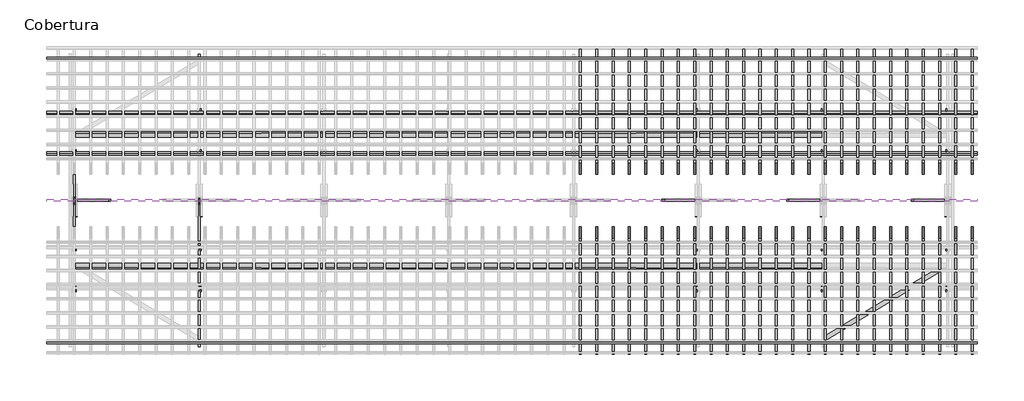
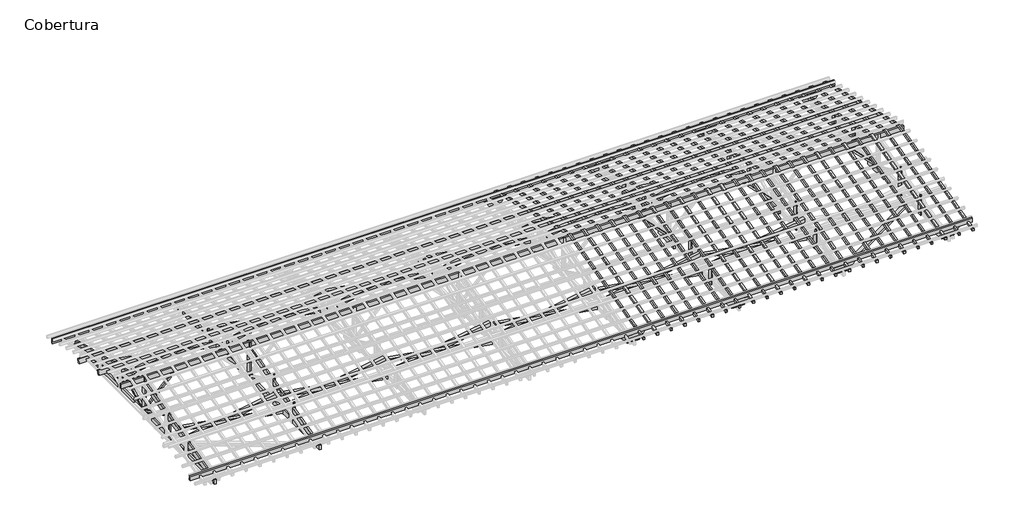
# One storey, part 2 of 3: 91 proxies.
"""IFC4 building model written with IfcOpenShell, lengths in millimetres."""

from ifc_helpers import new_model, si_unit, origin, place, context, project, spatial, transform, mapped, element, save
from components import generic_models_1c8a4039, generic_models_e28ae7d0, generic_models_4e4f0474, generic_models_0ec3bfae, generic_models_12623c72, generic_models_18122483, generic_models_455c2726, generic_models_cd607528, generic_models_390dc48b, generic_models_648e9327, generic_models_c1f13497, generic_models_5a4ce64b, generic_models_8aa0a59f, generic_models_5333c860, generic_models_04b795f0, generic_models_2621aa3c, generic_models_994ace6a, generic_models_3abef84c, generic_models_d7ae4c8c, generic_models_0a93a73b, generic_models_5cccd424, generic_models_344d9f8f, generic_models_3f94ce6d, generic_models_1c750111, generic_models_5cceeb7a, generic_models_e5331721, generic_models_4b42bfc0, generic_models_69da9097, generic_models_0b257a73, generic_models_58ecb920, generic_models_97cfe070, generic_models_f6e6b2fc, generic_models_ccca3100

model = new_model("IFC4")

# Units and contexts
model_context = context("Model", 3, world=origin())
ifc_project = project(units=[si_unit("LENGTHUNIT", "METRE", prefix="MILLI")], contexts=[model_context])

# Site, building, storey
site = spatial("IfcSite", under=ifc_project)
building = spatial("IfcBuilding", under=site)
storey = spatial("IfcBuildingStorey", under=building, Name="Cobertura", Elevation=3000.0)

# Proxies
placement = place(None, origin())
generic_models_shape = generic_models_1c8a4039(model_context)
element("IfcBuildingElementProxy", 1, Name="Modelos genéricos 1 : Modelos genéricos 1", ObjectType="Modelos genéricos 1 : Modelos genéricos 1", at=placement, inside=storey, context=model_context, shape_type="MappedRepresentation", body=[
    mapped(generic_models_shape, transform((0.0, 0.0, 0.0), x_axis=(1.0, 0.0, 0.0), y_axis=(0.0, 1.0, 0.0), z_axis=(0.0, 0.0, 1.0))),
])
generic_models_2_shape = generic_models_e28ae7d0(model_context)
element("IfcBuildingElementProxy", 2, Name="Modelos genéricos 5 : Modelos genéricos 5", ObjectType="Modelos genéricos 5 : Modelos genéricos 5", at=placement, inside=storey, context=model_context, shape_type="MappedRepresentation", body=[
    mapped(generic_models_2_shape, transform((0.0, 0.0, 0.0), x_axis=(1.0, 0.0, 0.0), y_axis=(0.0, 1.0, 0.0), z_axis=(0.0, 0.0, 1.0))),
])
generic_models_3_shape = generic_models_4e4f0474(model_context)
element("IfcBuildingElementProxy", 3, Name="Modelos genéricos 6 : Modelos genéricos 5", ObjectType="Modelos genéricos 6 : Modelos genéricos 5", at=placement, inside=storey, context=model_context, shape_type="MappedRepresentation", body=[
    mapped(generic_models_3_shape, transform((0.0, 0.0, 0.0), x_axis=(1.0, 0.0, 0.0), y_axis=(0.0, 1.0, 0.0), z_axis=(0.0, 0.0, 1.0))),
])
generic_models_4_shape = generic_models_0ec3bfae(model_context)
element("IfcBuildingElementProxy", 4, Name="Modelos genéricos 9 : Modelos genéricos 9", ObjectType="Modelos genéricos 9 : Modelos genéricos 9", at=placement, inside=storey, context=model_context, shape_type="MappedRepresentation", body=[
    mapped(generic_models_4_shape, transform((0.0, 5.0, 0.0), x_axis=(1.0, 0.0, 0.0), y_axis=(0.0, 1.0, 0.0), z_axis=(0.0, 0.0, 1.0))),
])
generic_models_5_shape = generic_models_12623c72(model_context)
element("IfcBuildingElementProxy", 5, Name="Modelos genéricos 11 : Modelos genéricos 11", ObjectType="Modelos genéricos 11 : Modelos genéricos 11", at=placement, inside=storey, context=model_context, shape_type="MappedRepresentation", body=[
    mapped(generic_models_5_shape, transform((0.0, 0.0, 0.0), x_axis=(1.0, 0.0, 0.0), y_axis=(0.0, 1.0, 0.0), z_axis=(0.0, 0.0, 1.0))),
])
generic_models_6_shape = generic_models_18122483(model_context)
element("IfcBuildingElementProxy", 6, Name="Modelos genéricos 12 : Modelos genéricos 12", ObjectType="Modelos genéricos 12 : Modelos genéricos 12", at=placement, inside=storey, context=model_context, shape_type="MappedRepresentation", body=[
    mapped(generic_models_6_shape, transform((0.0, 0.0, 0.0), x_axis=(1.0, 0.0, 0.0), y_axis=(0.0, 1.0, 0.0), z_axis=(0.0, 0.0, 1.0))),
])
generic_models_7_shape = generic_models_455c2726(model_context)
element("IfcBuildingElementProxy", 7, Name="Modelos genéricos 13 : Modelos genéricos 12", ObjectType="Modelos genéricos 13 : Modelos genéricos 12", at=placement, inside=storey, context=model_context, shape_type="MappedRepresentation", body=[
    mapped(generic_models_7_shape, transform((0.0, 0.0, 0.0), x_axis=(1.0, 0.0, 0.0), y_axis=(0.0, 1.0, 0.0), z_axis=(0.0, 0.0, 1.0))),
])
generic_models_8_shape = generic_models_cd607528(model_context)
element("IfcBuildingElementProxy", 8, Name="Modelos genéricos 16 : Modelos genéricos 16", ObjectType="Modelos genéricos 16 : Modelos genéricos 16", at=placement, inside=storey, context=model_context, shape_type="MappedRepresentation", body=[
    mapped(generic_models_8_shape, transform((0.0, 0.0, 0.0), x_axis=(1.0, 0.0, 0.0), y_axis=(0.0, 1.0, 0.0), z_axis=(0.0, 0.0, 1.0))),
])
generic_models_9_shape = generic_models_390dc48b(model_context)
element("IfcBuildingElementProxy", 9, Name="Modelos genéricos 17 : Modelos genéricos 16", ObjectType="Modelos genéricos 17 : Modelos genéricos 16", at=placement, inside=storey, context=model_context, shape_type="MappedRepresentation", body=[
    mapped(generic_models_9_shape, transform((0.0, 0.0, 0.0), x_axis=(1.0, 0.0, 0.0), y_axis=(0.0, 1.0, 0.0), z_axis=(0.0, 0.0, 1.0))),
])
generic_models_10_shape = generic_models_648e9327(model_context)
element("IfcBuildingElementProxy", 10, Name="Modelos genéricos 18 : Modelos genéricos 18", ObjectType="Modelos genéricos 18 : Modelos genéricos 18", at=placement, inside=storey, context=model_context, shape_type="MappedRepresentation", body=[
    mapped(generic_models_10_shape, transform((0.0, 0.0, 0.0), x_axis=(1.0, 0.0, 0.0), y_axis=(0.0, 1.0, 0.0), z_axis=(0.0, 0.0, 1.0))),
])
generic_models_11_shape = generic_models_c1f13497(model_context)
element("IfcBuildingElementProxy", 11, Name="Modelos genéricos 19 : Modelos genéricos 19", ObjectType="Modelos genéricos 19 : Modelos genéricos 19", at=placement, inside=storey, context=model_context, shape_type="MappedRepresentation", body=[
    mapped(generic_models_11_shape, transform((0.0, 0.0, 0.0), x_axis=(1.0, 0.0, 0.0), y_axis=(0.0, 1.0, 0.0), z_axis=(0.0, 0.0, 1.0))),
])
generic_models_12_shape = generic_models_5a4ce64b(model_context)
element("IfcBuildingElementProxy", 12, Name="Modelos genéricos 22 : Modelos genéricos 22", ObjectType="Modelos genéricos 22 : Modelos genéricos 22", at=placement, inside=storey, context=model_context, shape_type="MappedRepresentation", body=[
    mapped(generic_models_12_shape, transform((0.0, 0.0, 0.0), x_axis=(1.0, 0.0, 0.0), y_axis=(0.0, 1.0, 0.0), z_axis=(0.0, 0.0, 1.0))),
])
generic_models_13_shape = generic_models_8aa0a59f(model_context)
element("IfcBuildingElementProxy", 13, Name="Modelos genéricos 23 : Modelos genéricos 23", ObjectType="Modelos genéricos 23 : Modelos genéricos 23", at=placement, inside=storey, context=model_context, shape_type="MappedRepresentation", body=[
    mapped(generic_models_13_shape, transform((0.0, 0.0, 0.0), x_axis=(1.0, 0.0, 0.0), y_axis=(0.0, 1.0, 0.0), z_axis=(0.0, 0.0, 1.0))),
])
generic_models_14_shape = generic_models_5333c860(model_context)
element("IfcBuildingElementProxy", 14, Name="Modelos genéricos 25 : Modelos genéricos 25", ObjectType="Modelos genéricos 25 : Modelos genéricos 25", at=placement, inside=storey, context=model_context, shape_type="MappedRepresentation", body=[
    mapped(generic_models_14_shape, transform((0.0, 0.0, 0.0), x_axis=(1.0, 0.0, 0.0), y_axis=(0.0, 1.0, 0.0), z_axis=(0.0, 0.0, 1.0))),
])
generic_models_15_shape = generic_models_04b795f0(model_context)
element("IfcBuildingElementProxy", 15, Name="Modelos genéricos 26 : Modelos genéricos 25", ObjectType="Modelos genéricos 26 : Modelos genéricos 25", at=placement, inside=storey, context=model_context, shape_type="MappedRepresentation", body=[
    mapped(generic_models_15_shape, transform((0.0, 0.0, 0.0), x_axis=(1.0, 0.0, 0.0), y_axis=(0.0, 1.0, 0.0), z_axis=(0.0, 0.0, 1.0))),
])
generic_models_16_shape = generic_models_2621aa3c(model_context)
element("IfcBuildingElementProxy", 16, Name="Modelos genéricos 24 : Modelos genéricos 1", ObjectType="Modelos genéricos 24 : Modelos genéricos 1", at=placement, inside=storey, context=model_context, shape_type="MappedRepresentation", body=[
    mapped(generic_models_16_shape, transform((0.0, 0.0, 0.0), x_axis=(1.0, 0.0, 0.0), y_axis=(0.0, 1.0, 0.0), z_axis=(0.0, 0.0, 1.0))),
])
generic_models_17_shape = generic_models_994ace6a(model_context)
element("IfcBuildingElementProxy", 17, Name="Modelos genéricos 30 : Modelos genéricos 5", ObjectType="Modelos genéricos 30 : Modelos genéricos 5", at=placement, inside=storey, context=model_context, shape_type="MappedRepresentation", body=[
    mapped(generic_models_17_shape, transform((0.0, 0.0, 0.0), x_axis=(1.0, 0.0, 0.0), y_axis=(0.0, 1.0, 0.0), z_axis=(0.0, 0.0, 1.0))),
])
generic_models_18_shape = generic_models_3abef84c(model_context)
element("IfcBuildingElementProxy", 18, Name="Modelos genéricos 31 : Modelos genéricos 5", ObjectType="Modelos genéricos 31 : Modelos genéricos 5", at=placement, inside=storey, context=model_context, shape_type="MappedRepresentation", body=[
    mapped(generic_models_18_shape, transform((0.0, 0.0, 0.0), x_axis=(1.0, 0.0, 0.0), y_axis=(0.0, 1.0, 0.0), z_axis=(0.0, 0.0, 1.0))),
])
generic_models_19_shape = generic_models_d7ae4c8c(model_context)
element("IfcBuildingElementProxy", 19, Name="Modelos genéricos 32 : Modelos genéricos 9", ObjectType="Modelos genéricos 32 : Modelos genéricos 9", at=placement, inside=storey, context=model_context, shape_type="MappedRepresentation", body=[
    mapped(generic_models_19_shape, transform((0.0, 5.0, 0.0), x_axis=(1.0, 0.0, 0.0), y_axis=(0.0, 1.0, 0.0), z_axis=(0.0, 0.0, 1.0))),
])
generic_models_20_shape = generic_models_0a93a73b(model_context)
element("IfcBuildingElementProxy", 20, Name="Modelos genéricos 33 : Modelos genéricos 11", ObjectType="Modelos genéricos 33 : Modelos genéricos 11", at=placement, inside=storey, context=model_context, shape_type="MappedRepresentation", body=[
    mapped(generic_models_20_shape, transform((0.0, 0.0, 0.0), x_axis=(1.0, 0.0, 0.0), y_axis=(0.0, 1.0, 0.0), z_axis=(0.0, 0.0, 1.0))),
])
generic_models_21_shape = generic_models_5cccd424(model_context)
element("IfcBuildingElementProxy", 21, Name="Modelos genéricos 34 : Modelos genéricos 12", ObjectType="Modelos genéricos 34 : Modelos genéricos 12", at=placement, inside=storey, context=model_context, shape_type="MappedRepresentation", body=[
    mapped(generic_models_21_shape, transform((0.0, 0.0, 0.0), x_axis=(1.0, 0.0, 0.0), y_axis=(0.0, 1.0, 0.0), z_axis=(0.0, 0.0, 1.0))),
])
generic_models_22_shape = generic_models_344d9f8f(model_context)
element("IfcBuildingElementProxy", 22, Name="Modelos genéricos 112 : Modelos genéricos 9", ObjectType="Modelos genéricos 112 : Modelos genéricos 9", at=placement, inside=storey, context=model_context, shape_type="MappedRepresentation", body=[
    mapped(generic_models_22_shape, transform((-38750.0, 5.0, 0.0), x_axis=(1.0, 0.0, 0.0), y_axis=(0.0, 1.0, 0.0), z_axis=(0.0, 0.0, 1.0))),
])
generic_models_23_shape = generic_models_3f94ce6d(model_context)
element("IfcBuildingElementProxy", 23, Name="Modelos genéricos 117 : Modelos genéricos 5", ObjectType="Modelos genéricos 117 : Modelos genéricos 5", at=placement, inside=storey, context=model_context, shape_type="MappedRepresentation", body=[
    mapped(generic_models_23_shape, transform((-38750.0, 0.0, 0.0), x_axis=(1.0, 0.0, 0.0), y_axis=(0.0, 1.0, 0.0), z_axis=(0.0, 0.0, 1.0))),
])
generic_models_24_shape = generic_models_1c750111(model_context)
element("IfcBuildingElementProxy", 24, Name="Modelos genéricos 118 : Modelos genéricos 5", ObjectType="Modelos genéricos 118 : Modelos genéricos 5", at=placement, inside=storey, context=model_context, shape_type="MappedRepresentation", body=[
    mapped(generic_models_24_shape, transform((-38750.0, 0.0, 0.0), x_axis=(1.0, 0.0, 0.0), y_axis=(0.0, 1.0, 0.0), z_axis=(0.0, 0.0, 1.0))),
])
generic_models_25_shape = generic_models_5cceeb7a(model_context)
element("IfcBuildingElementProxy", 25, Name="Modelos genéricos 120 : Modelos genéricos 23", ObjectType="Modelos genéricos 120 : Modelos genéricos 23", at=placement, inside=storey, context=model_context, shape_type="MappedRepresentation", body=[
    mapped(generic_models_25_shape, transform((-38750.0, 0.0, 0.0), x_axis=(1.0, 0.0, 0.0), y_axis=(0.0, 1.0, 0.0), z_axis=(0.0, 0.0, 1.0))),
])
element("IfcBuildingElementProxy", 26, Name="Modelos genéricos 131 : Modelos genéricos 9", ObjectType="Modelos genéricos 131 : Modelos genéricos 9", at=placement, inside=storey, context=model_context, shape_type="MappedRepresentation", body=[
    mapped(generic_models_22_shape, transform((-35100.0, 5.0, 0.0), x_axis=(1.0, 0.0, 0.0), y_axis=(0.0, 1.0, 0.0), z_axis=(0.0, 0.0, 1.0))),
])
element("IfcBuildingElementProxy", 27, Name="Modelos genéricos 136 : Modelos genéricos 5", ObjectType="Modelos genéricos 136 : Modelos genéricos 5", at=placement, inside=storey, context=model_context, shape_type="MappedRepresentation", body=[
    mapped(generic_models_23_shape, transform((-35100.0, 0.0, 0.0), x_axis=(1.0, 0.0, 0.0), y_axis=(0.0, 1.0, 0.0), z_axis=(0.0, 0.0, 1.0))),
])
element("IfcBuildingElementProxy", 28, Name="Modelos genéricos 137 : Modelos genéricos 5", ObjectType="Modelos genéricos 137 : Modelos genéricos 5", at=placement, inside=storey, context=model_context, shape_type="MappedRepresentation", body=[
    mapped(generic_models_24_shape, transform((-35100.0, 0.0, 0.0), x_axis=(1.0, 0.0, 0.0), y_axis=(0.0, 1.0, 0.0), z_axis=(0.0, 0.0, 1.0))),
])
element("IfcBuildingElementProxy", 29, Name="Modelos genéricos 140 : Modelos genéricos 23", ObjectType="Modelos genéricos 140 : Modelos genéricos 23", at=placement, inside=storey, context=model_context, shape_type="MappedRepresentation", body=[
    mapped(generic_models_25_shape, transform((-35100.0, 0.0, 0.0), x_axis=(1.0, 0.0, 0.0), y_axis=(0.0, 1.0, 0.0), z_axis=(0.0, 0.0, 1.0))),
])
element("IfcBuildingElementProxy", 30, Name="Modelos genéricos 151 : Modelos genéricos 9", ObjectType="Modelos genéricos 151 : Modelos genéricos 9", at=placement, inside=storey, context=model_context, shape_type="MappedRepresentation", body=[
    mapped(generic_models_22_shape, transform((-31450.0, 5.0, 0.0), x_axis=(1.0, 0.0, 0.0), y_axis=(0.0, 1.0, 0.0), z_axis=(0.0, 0.0, 1.0))),
])
element("IfcBuildingElementProxy", 31, Name="Modelos genéricos 156 : Modelos genéricos 5", ObjectType="Modelos genéricos 156 : Modelos genéricos 5", at=placement, inside=storey, context=model_context, shape_type="MappedRepresentation", body=[
    mapped(generic_models_23_shape, transform((-31450.0, 0.0, 0.0), x_axis=(1.0, 0.0, 0.0), y_axis=(0.0, 1.0, 0.0), z_axis=(0.0, 0.0, 1.0))),
])
element("IfcBuildingElementProxy", 32, Name="Modelos genéricos 157 : Modelos genéricos 5", ObjectType="Modelos genéricos 157 : Modelos genéricos 5", at=placement, inside=storey, context=model_context, shape_type="MappedRepresentation", body=[
    mapped(generic_models_24_shape, transform((-31450.0, 0.0, 0.0), x_axis=(1.0, 0.0, 0.0), y_axis=(0.0, 1.0, 0.0), z_axis=(0.0, 0.0, 1.0))),
])
element("IfcBuildingElementProxy", 33, Name="Modelos genéricos 159 : Modelos genéricos 23", ObjectType="Modelos genéricos 159 : Modelos genéricos 23", at=placement, inside=storey, context=model_context, shape_type="MappedRepresentation", body=[
    mapped(generic_models_25_shape, transform((-31450.0, 0.0, 0.0), x_axis=(1.0, 0.0, 0.0), y_axis=(0.0, 1.0, 0.0), z_axis=(0.0, 0.0, 1.0))),
])
generic_models_26_shape = generic_models_e5331721(model_context)
element("IfcBuildingElementProxy", 34, Name="Modelos genéricos 47 : Modelos genéricos 3", ObjectType="Modelos genéricos 47 : Modelos genéricos 3", at=placement, inside=storey, context=model_context, shape_type="MappedRepresentation", body=[
    mapped(generic_models_26_shape, transform((-38750.0, 0.0, 0.0), x_axis=(1.0, 0.0, 0.0), y_axis=(0.0, 1.0, 0.0), z_axis=(0.0, 0.0, 1.0))),
])
element("IfcBuildingElementProxy", 35, Name="Modelos genéricos 48 : Modelos genéricos 3", ObjectType="Modelos genéricos 48 : Modelos genéricos 3", at=placement, inside=storey, context=model_context, shape_type="MappedRepresentation", body=[
    mapped(generic_models_26_shape, transform((-35100.0, 0.0, 0.0), x_axis=(1.0, 0.0, 0.0), y_axis=(0.0, 1.0, 0.0), z_axis=(0.0, 0.0, 1.0))),
])
element("IfcBuildingElementProxy", 36, Name="Modelos genéricos 66 : Modelos genéricos 3", ObjectType="Modelos genéricos 66 : Modelos genéricos 3", at=placement, inside=storey, context=model_context, shape_type="MappedRepresentation", body=[
    mapped(generic_models_26_shape, transform((-31450.0, 0.0, 0.0), x_axis=(1.0, 0.0, 0.0), y_axis=(0.0, 1.0, 0.0), z_axis=(0.0, 0.0, 1.0))),
])
element("IfcBuildingElementProxy", 37, Name="Modelos genéricos 67 : Modelos genéricos 3", ObjectType="Modelos genéricos 67 : Modelos genéricos 3", at=placement, inside=storey, context=model_context, shape_type="MappedRepresentation", body=[
    mapped(generic_models_26_shape, transform((-42400.0, 0.0, 0.0), x_axis=(1.0, 0.0, 0.0), y_axis=(0.0, 1.0, 0.0), z_axis=(0.0, 0.0, 1.0))),
])
generic_models_27_shape = generic_models_4b42bfc0(model_context)
element("IfcBuildingElementProxy", 38, Name="Modelos genéricos 123 : Modelos genéricos 3", ObjectType="Modelos genéricos 123 : Modelos genéricos 3", at=placement, inside=storey, context=model_context, shape_type="MappedRepresentation", body=[
    mapped(generic_models_27_shape, transform((-38750.0, 0.0, 0.0), x_axis=(1.0, 0.0, 0.0), y_axis=(0.0, 1.0, 0.0), z_axis=(0.0, 0.0, 1.0))),
])
element("IfcBuildingElementProxy", 39, Name="Modelos genéricos 124 : Modelos genéricos 3", ObjectType="Modelos genéricos 124 : Modelos genéricos 3", at=placement, inside=storey, context=model_context, shape_type="MappedRepresentation", body=[
    mapped(generic_models_27_shape, transform((-35100.0, 0.0, 0.0), x_axis=(1.0, 0.0, 0.0), y_axis=(0.0, 1.0, 0.0), z_axis=(0.0, 0.0, 1.0))),
])
element("IfcBuildingElementProxy", 40, Name="Modelos genéricos 139 : Modelos genéricos 3", ObjectType="Modelos genéricos 139 : Modelos genéricos 3", at=placement, inside=storey, context=model_context, shape_type="MappedRepresentation", body=[
    mapped(generic_models_27_shape, transform((-31450.0, 0.0, 0.0), x_axis=(1.0, 0.0, 0.0), y_axis=(0.0, 1.0, 0.0), z_axis=(0.0, 0.0, 1.0))),
])
element("IfcBuildingElementProxy", 41, Name="Modelos genéricos 143 : Modelos genéricos 3", ObjectType="Modelos genéricos 143 : Modelos genéricos 3", at=placement, inside=storey, context=model_context, shape_type="MappedRepresentation", body=[
    mapped(generic_models_27_shape, transform((-42400.0, 0.0, 0.0), x_axis=(1.0, 0.0, 0.0), y_axis=(0.0, 1.0, 0.0), z_axis=(0.0, 0.0, 1.0))),
])
generic_models_28_shape = generic_models_69da9097(model_context)
element("IfcBuildingElementProxy", 42, Name="Modelos genéricos 235 : Modelos genéricos 231", ObjectType="Modelos genéricos 235 : Modelos genéricos 231", at=placement, inside=storey, context=model_context, shape_type="MappedRepresentation", body=[
    mapped(generic_models_28_shape, transform((-3650.0, 0.0, 0.0), x_axis=(1.0, 0.0, 0.0), y_axis=(0.0, 1.0, 0.0), z_axis=(0.0, 0.0, 1.0))),
])
generic_models_29_shape = generic_models_0b257a73(model_context)
element("IfcBuildingElementProxy", 43, Name="Modelos genéricos 236 : Modelos genéricos 231", ObjectType="Modelos genéricos 236 : Modelos genéricos 231", at=placement, inside=storey, context=model_context, shape_type="MappedRepresentation", body=[
    mapped(generic_models_29_shape, transform((-3650.0, 0.0, 0.0), x_axis=(1.0, 0.0, 0.0), y_axis=(0.0, 1.0, 0.0), z_axis=(0.0, 0.0, 1.0))),
])
generic_models_30_shape = generic_models_58ecb920(model_context)
element("IfcBuildingElementProxy", 44, Name="Modelos genéricos 237 : Modelos genéricos 231", ObjectType="Modelos genéricos 237 : Modelos genéricos 231", at=placement, inside=storey, context=model_context, shape_type="MappedRepresentation", body=[
    mapped(generic_models_30_shape, transform((-3650.0, 0.0, 0.0), x_axis=(1.0, 0.0, 0.0), y_axis=(0.0, 1.0, 0.0), z_axis=(0.0, 0.0, 1.0))),
])
generic_models_31_shape = generic_models_97cfe070(model_context)
element("IfcBuildingElementProxy", 45, Name="Modelos genéricos 238 : Modelos genéricos 231", ObjectType="Modelos genéricos 238 : Modelos genéricos 231", at=placement, inside=storey, context=model_context, shape_type="MappedRepresentation", body=[
    mapped(generic_models_31_shape, transform((-3650.0, 0.0, 0.0), x_axis=(1.0, 0.0, 0.0), y_axis=(0.0, 1.0, 0.0), z_axis=(0.0, 0.0, 1.0))),
])
element("IfcBuildingElementProxy", 46, Name="Modelos genéricos 239 : Modelos genéricos 231", ObjectType="Modelos genéricos 239 : Modelos genéricos 231", at=placement, inside=storey, context=model_context, shape_type="MappedRepresentation", body=[
    mapped(generic_models_28_shape, transform((-7300.0, 0.0, 0.0), x_axis=(1.0, 0.0, 0.0), y_axis=(0.0, 1.0, 0.0), z_axis=(0.0, 0.0, 1.0))),
])
element("IfcBuildingElementProxy", 47, Name="Modelos genéricos 240 : Modelos genéricos 231", ObjectType="Modelos genéricos 240 : Modelos genéricos 231", at=placement, inside=storey, context=model_context, shape_type="MappedRepresentation", body=[
    mapped(generic_models_29_shape, transform((-7300.0, 0.0, 0.0), x_axis=(1.0, 0.0, 0.0), y_axis=(0.0, 1.0, 0.0), z_axis=(0.0, 0.0, 1.0))),
])
element("IfcBuildingElementProxy", 48, Name="Modelos genéricos 241 : Modelos genéricos 231", ObjectType="Modelos genéricos 241 : Modelos genéricos 231", at=placement, inside=storey, context=model_context, shape_type="MappedRepresentation", body=[
    mapped(generic_models_30_shape, transform((-7300.0, 0.0, 0.0), x_axis=(1.0, 0.0, 0.0), y_axis=(0.0, 1.0, 0.0), z_axis=(0.0, 0.0, 1.0))),
])
element("IfcBuildingElementProxy", 49, Name="Modelos genéricos 242 : Modelos genéricos 231", ObjectType="Modelos genéricos 242 : Modelos genéricos 231", at=placement, inside=storey, context=model_context, shape_type="MappedRepresentation", body=[
    mapped(generic_models_31_shape, transform((-7300.0, 0.0, 0.0), x_axis=(1.0, 0.0, 0.0), y_axis=(0.0, 1.0, 0.0), z_axis=(0.0, 0.0, 1.0))),
])
element("IfcBuildingElementProxy", 50, Name="Modelos genéricos 243 : Modelos genéricos 231", ObjectType="Modelos genéricos 243 : Modelos genéricos 231", at=placement, inside=storey, context=model_context, shape_type="MappedRepresentation", body=[
    mapped(generic_models_28_shape, transform((-10950.0, 0.0, 0.0), x_axis=(1.0, 0.0, 0.0), y_axis=(0.0, 1.0, 0.0), z_axis=(0.0, 0.0, 1.0))),
])
element("IfcBuildingElementProxy", 51, Name="Modelos genéricos 244 : Modelos genéricos 231", ObjectType="Modelos genéricos 244 : Modelos genéricos 231", at=placement, inside=storey, context=model_context, shape_type="MappedRepresentation", body=[
    mapped(generic_models_29_shape, transform((-10950.0, 0.0, 0.0), x_axis=(1.0, 0.0, 0.0), y_axis=(0.0, 1.0, 0.0), z_axis=(0.0, 0.0, 1.0))),
])
element("IfcBuildingElementProxy", 52, Name="Modelos genéricos 245 : Modelos genéricos 231", ObjectType="Modelos genéricos 245 : Modelos genéricos 231", at=placement, inside=storey, context=model_context, shape_type="MappedRepresentation", body=[
    mapped(generic_models_30_shape, transform((-10950.0, 0.0, 0.0), x_axis=(1.0, 0.0, 0.0), y_axis=(0.0, 1.0, 0.0), z_axis=(0.0, 0.0, 1.0))),
])
element("IfcBuildingElementProxy", 53, Name="Modelos genéricos 246 : Modelos genéricos 231", ObjectType="Modelos genéricos 246 : Modelos genéricos 231", at=placement, inside=storey, context=model_context, shape_type="MappedRepresentation", body=[
    mapped(generic_models_31_shape, transform((-10950.0, 0.0, 0.0), x_axis=(1.0, 0.0, 0.0), y_axis=(0.0, 1.0, 0.0), z_axis=(0.0, 0.0, 1.0))),
])
element("IfcBuildingElementProxy", 54, Name="Modelos genéricos 247 : Modelos genéricos 231", ObjectType="Modelos genéricos 247 : Modelos genéricos 231", at=placement, inside=storey, context=model_context, shape_type="MappedRepresentation", body=[
    mapped(generic_models_28_shape, transform((-14600.0, 0.0, 0.0), x_axis=(1.0, 0.0, 0.0), y_axis=(0.0, 1.0, 0.0), z_axis=(0.0, 0.0, 1.0))),
])
element("IfcBuildingElementProxy", 55, Name="Modelos genéricos 248 : Modelos genéricos 231", ObjectType="Modelos genéricos 248 : Modelos genéricos 231", at=placement, inside=storey, context=model_context, shape_type="MappedRepresentation", body=[
    mapped(generic_models_29_shape, transform((-14600.0, 0.0, 0.0), x_axis=(1.0, 0.0, 0.0), y_axis=(0.0, 1.0, 0.0), z_axis=(0.0, 0.0, 1.0))),
])
element("IfcBuildingElementProxy", 56, Name="Modelos genéricos 249 : Modelos genéricos 231", ObjectType="Modelos genéricos 249 : Modelos genéricos 231", at=placement, inside=storey, context=model_context, shape_type="MappedRepresentation", body=[
    mapped(generic_models_30_shape, transform((-14600.0, 0.0, 0.0), x_axis=(1.0, 0.0, 0.0), y_axis=(0.0, 1.0, 0.0), z_axis=(0.0, 0.0, 1.0))),
])
element("IfcBuildingElementProxy", 57, Name="Modelos genéricos 250 : Modelos genéricos 231", ObjectType="Modelos genéricos 250 : Modelos genéricos 231", at=placement, inside=storey, context=model_context, shape_type="MappedRepresentation", body=[
    mapped(generic_models_31_shape, transform((-14600.0, 0.0, 0.0), x_axis=(1.0, 0.0, 0.0), y_axis=(0.0, 1.0, 0.0), z_axis=(0.0, 0.0, 1.0))),
])
element("IfcBuildingElementProxy", 58, Name="Modelos genéricos 251 : Modelos genéricos 231", ObjectType="Modelos genéricos 251 : Modelos genéricos 231", at=placement, inside=storey, context=model_context, shape_type="MappedRepresentation", body=[
    mapped(generic_models_28_shape, transform((-18250.0, 0.0, 0.0), x_axis=(1.0, 0.0, 0.0), y_axis=(0.0, 1.0, 0.0), z_axis=(0.0, 0.0, 1.0))),
])
element("IfcBuildingElementProxy", 59, Name="Modelos genéricos 252 : Modelos genéricos 231", ObjectType="Modelos genéricos 252 : Modelos genéricos 231", at=placement, inside=storey, context=model_context, shape_type="MappedRepresentation", body=[
    mapped(generic_models_29_shape, transform((-18250.0, 0.0, 0.0), x_axis=(1.0, 0.0, 0.0), y_axis=(0.0, 1.0, 0.0), z_axis=(0.0, 0.0, 1.0))),
])
element("IfcBuildingElementProxy", 60, Name="Modelos genéricos 253 : Modelos genéricos 231", ObjectType="Modelos genéricos 253 : Modelos genéricos 231", at=placement, inside=storey, context=model_context, shape_type="MappedRepresentation", body=[
    mapped(generic_models_30_shape, transform((-18250.0, 0.0, 0.0), x_axis=(1.0, 0.0, 0.0), y_axis=(0.0, 1.0, 0.0), z_axis=(0.0, 0.0, 1.0))),
])
element("IfcBuildingElementProxy", 61, Name="Modelos genéricos 254 : Modelos genéricos 231", ObjectType="Modelos genéricos 254 : Modelos genéricos 231", at=placement, inside=storey, context=model_context, shape_type="MappedRepresentation", body=[
    mapped(generic_models_31_shape, transform((-18250.0, 0.0, 0.0), x_axis=(1.0, 0.0, 0.0), y_axis=(0.0, 1.0, 0.0), z_axis=(0.0, 0.0, 1.0))),
])
element("IfcBuildingElementProxy", 62, Name="Modelos genéricos 255 : Modelos genéricos 231", ObjectType="Modelos genéricos 255 : Modelos genéricos 231", at=placement, inside=storey, context=model_context, shape_type="MappedRepresentation", body=[
    mapped(generic_models_28_shape, transform((-21900.0, 0.0, 0.0), x_axis=(1.0, 0.0, 0.0), y_axis=(0.0, 1.0, 0.0), z_axis=(0.0, 0.0, 1.0))),
])
element("IfcBuildingElementProxy", 63, Name="Modelos genéricos 256 : Modelos genéricos 231", ObjectType="Modelos genéricos 256 : Modelos genéricos 231", at=placement, inside=storey, context=model_context, shape_type="MappedRepresentation", body=[
    mapped(generic_models_29_shape, transform((-21900.0, 0.0, 0.0), x_axis=(1.0, 0.0, 0.0), y_axis=(0.0, 1.0, 0.0), z_axis=(0.0, 0.0, 1.0))),
])
element("IfcBuildingElementProxy", 64, Name="Modelos genéricos 257 : Modelos genéricos 231", ObjectType="Modelos genéricos 257 : Modelos genéricos 231", at=placement, inside=storey, context=model_context, shape_type="MappedRepresentation", body=[
    mapped(generic_models_30_shape, transform((-21900.0, 0.0, 0.0), x_axis=(1.0, 0.0, 0.0), y_axis=(0.0, 1.0, 0.0), z_axis=(0.0, 0.0, 1.0))),
])
element("IfcBuildingElementProxy", 65, Name="Modelos genéricos 258 : Modelos genéricos 231", ObjectType="Modelos genéricos 258 : Modelos genéricos 231", at=placement, inside=storey, context=model_context, shape_type="MappedRepresentation", body=[
    mapped(generic_models_31_shape, transform((-21900.0, 0.0, 0.0), x_axis=(1.0, 0.0, 0.0), y_axis=(0.0, 1.0, 0.0), z_axis=(0.0, 0.0, 1.0))),
])
generic_models_32_shape = generic_models_f6e6b2fc(model_context)
element("IfcBuildingElementProxy", 66, Name="Modelos genéricos 262 : Modelos genéricos 259", ObjectType="Modelos genéricos 262 : Modelos genéricos 259", at=placement, inside=storey, context=model_context, shape_type="MappedRepresentation", body=[
    mapped(generic_models_32_shape, transform((-20.0, 15.0, 0.0), x_axis=(1.0, 0.0, 0.0), y_axis=(0.0, 1.0, 0.0), z_axis=(0.0, 0.0, 1.0))),
])
generic_models_33_shape = generic_models_ccca3100(model_context)
element("IfcBuildingElementProxy", 67, Name="Modelos genéricos 198 : Modelos genéricos 174", ObjectType="Modelos genéricos 198 : Modelos genéricos 174", at=placement, inside=storey, context=model_context, shape_type="MappedRepresentation", body=[
    mapped(generic_models_33_shape, transform((-42675.7009346, 0.0, 0.0), x_axis=(1.0, 0.0, 0.0), y_axis=(0.0, 1.0, 0.0), z_axis=(0.0, 0.0, 1.0))),
])
element("IfcBuildingElementProxy", 68, Name="Modelos genéricos 199 : Modelos genéricos 174", ObjectType="Modelos genéricos 199 : Modelos genéricos 174", at=placement, inside=storey, context=model_context, shape_type="MappedRepresentation", body=[
    mapped(generic_models_33_shape, transform((-42198.2242991, 0.0, 0.0), x_axis=(1.0, 0.0, 0.0), y_axis=(0.0, 1.0, 0.0), z_axis=(0.0, 0.0, 1.0))),
])
element("IfcBuildingElementProxy", 69, Name="Modelos genéricos 200 : Modelos genéricos 174", ObjectType="Modelos genéricos 200 : Modelos genéricos 174", at=placement, inside=storey, context=model_context, shape_type="MappedRepresentation", body=[
    mapped(generic_models_33_shape, transform((-41720.7476636, 0.0, 0.0), x_axis=(1.0, 0.0, 0.0), y_axis=(0.0, 1.0, 0.0), z_axis=(0.0, 0.0, 1.0))),
])
element("IfcBuildingElementProxy", 70, Name="Modelos genéricos 201 : Modelos genéricos 174", ObjectType="Modelos genéricos 201 : Modelos genéricos 174", at=placement, inside=storey, context=model_context, shape_type="MappedRepresentation", body=[
    mapped(generic_models_33_shape, transform((-41243.271028, 0.0, 0.0), x_axis=(1.0, 0.0, 0.0), y_axis=(0.0, 1.0, 0.0), z_axis=(0.0, 0.0, 1.0))),
])
element("IfcBuildingElementProxy", 71, Name="Modelos genéricos 202 : Modelos genéricos 174", ObjectType="Modelos genéricos 202 : Modelos genéricos 174", at=placement, inside=storey, context=model_context, shape_type="MappedRepresentation", body=[
    mapped(generic_models_33_shape, transform((-40765.7943925, 0.0, 0.0), x_axis=(1.0, 0.0, 0.0), y_axis=(0.0, 1.0, 0.0), z_axis=(0.0, 0.0, 1.0))),
])
element("IfcBuildingElementProxy", 72, Name="Modelos genéricos 203 : Modelos genéricos 174", ObjectType="Modelos genéricos 203 : Modelos genéricos 174", at=placement, inside=storey, context=model_context, shape_type="MappedRepresentation", body=[
    mapped(generic_models_33_shape, transform((-40288.317757, 0.0, 0.0), x_axis=(1.0, 0.0, 0.0), y_axis=(0.0, 1.0, 0.0), z_axis=(0.0, 0.0, 1.0))),
])
element("IfcBuildingElementProxy", 73, Name="Modelos genéricos 204 : Modelos genéricos 174", ObjectType="Modelos genéricos 204 : Modelos genéricos 174", at=placement, inside=storey, context=model_context, shape_type="MappedRepresentation", body=[
    mapped(generic_models_33_shape, transform((-39810.8411215, 0.0, 0.0), x_axis=(1.0, 0.0, 0.0), y_axis=(0.0, 1.0, 0.0), z_axis=(0.0, 0.0, 1.0))),
])
element("IfcBuildingElementProxy", 74, Name="Modelos genéricos 205 : Modelos genéricos 174", ObjectType="Modelos genéricos 205 : Modelos genéricos 174", at=placement, inside=storey, context=model_context, shape_type="MappedRepresentation", body=[
    mapped(generic_models_33_shape, transform((-39333.364486, 0.0, 0.0), x_axis=(1.0, 0.0, 0.0), y_axis=(0.0, 1.0, 0.0), z_axis=(0.0, 0.0, 1.0))),
])
element("IfcBuildingElementProxy", 75, Name="Modelos genéricos 206 : Modelos genéricos 174", ObjectType="Modelos genéricos 206 : Modelos genéricos 174", at=placement, inside=storey, context=model_context, shape_type="MappedRepresentation", body=[
    mapped(generic_models_33_shape, transform((-38855.8878505, 0.0, 0.0), x_axis=(1.0, 0.0, 0.0), y_axis=(0.0, 1.0, 0.0), z_axis=(0.0, 0.0, 1.0))),
])
element("IfcBuildingElementProxy", 76, Name="Modelos genéricos 207 : Modelos genéricos 174", ObjectType="Modelos genéricos 207 : Modelos genéricos 174", at=placement, inside=storey, context=model_context, shape_type="MappedRepresentation", body=[
    mapped(generic_models_33_shape, transform((-38378.411215, 0.0, 0.0), x_axis=(1.0, 0.0, 0.0), y_axis=(0.0, 1.0, 0.0), z_axis=(0.0, 0.0, 1.0))),
])
element("IfcBuildingElementProxy", 77, Name="Modelos genéricos 208 : Modelos genéricos 174", ObjectType="Modelos genéricos 208 : Modelos genéricos 174", at=placement, inside=storey, context=model_context, shape_type="MappedRepresentation", body=[
    mapped(generic_models_33_shape, transform((-37900.9345794, 0.0, 0.0), x_axis=(1.0, 0.0, 0.0), y_axis=(0.0, 1.0, 0.0), z_axis=(0.0, 0.0, 1.0))),
])
element("IfcBuildingElementProxy", 78, Name="Modelos genéricos 209 : Modelos genéricos 174", ObjectType="Modelos genéricos 209 : Modelos genéricos 174", at=placement, inside=storey, context=model_context, shape_type="MappedRepresentation", body=[
    mapped(generic_models_33_shape, transform((-37423.4579439, 0.0, 0.0), x_axis=(1.0, 0.0, 0.0), y_axis=(0.0, 1.0, 0.0), z_axis=(0.0, 0.0, 1.0))),
])
element("IfcBuildingElementProxy", 79, Name="Modelos genéricos 210 : Modelos genéricos 174", ObjectType="Modelos genéricos 210 : Modelos genéricos 174", at=placement, inside=storey, context=model_context, shape_type="MappedRepresentation", body=[
    mapped(generic_models_33_shape, transform((-36945.9813084, 0.0, 0.0), x_axis=(1.0, 0.0, 0.0), y_axis=(0.0, 1.0, 0.0), z_axis=(0.0, 0.0, 1.0))),
])
element("IfcBuildingElementProxy", 80, Name="Modelos genéricos 211 : Modelos genéricos 174", ObjectType="Modelos genéricos 211 : Modelos genéricos 174", at=placement, inside=storey, context=model_context, shape_type="MappedRepresentation", body=[
    mapped(generic_models_33_shape, transform((-36468.5046729, 0.0, 0.0), x_axis=(1.0, 0.0, 0.0), y_axis=(0.0, 1.0, 0.0), z_axis=(0.0, 0.0, 1.0))),
])
element("IfcBuildingElementProxy", 81, Name="Modelos genéricos 212 : Modelos genéricos 174", ObjectType="Modelos genéricos 212 : Modelos genéricos 174", at=placement, inside=storey, context=model_context, shape_type="MappedRepresentation", body=[
    mapped(generic_models_33_shape, transform((-35991.0280374, 0.0, 0.0), x_axis=(1.0, 0.0, 0.0), y_axis=(0.0, 1.0, 0.0), z_axis=(0.0, 0.0, 1.0))),
])
element("IfcBuildingElementProxy", 82, Name="Modelos genéricos 213 : Modelos genéricos 174", ObjectType="Modelos genéricos 213 : Modelos genéricos 174", at=placement, inside=storey, context=model_context, shape_type="MappedRepresentation", body=[
    mapped(generic_models_33_shape, transform((-35513.5514019, 0.0, 0.0), x_axis=(1.0, 0.0, 0.0), y_axis=(0.0, 1.0, 0.0), z_axis=(0.0, 0.0, 1.0))),
])
element("IfcBuildingElementProxy", 83, Name="Modelos genéricos 214 : Modelos genéricos 174", ObjectType="Modelos genéricos 214 : Modelos genéricos 174", at=placement, inside=storey, context=model_context, shape_type="MappedRepresentation", body=[
    mapped(generic_models_33_shape, transform((-35036.0747664, 0.0, 0.0), x_axis=(1.0, 0.0, 0.0), y_axis=(0.0, 1.0, 0.0), z_axis=(0.0, 0.0, 1.0))),
])
element("IfcBuildingElementProxy", 84, Name="Modelos genéricos 215 : Modelos genéricos 174", ObjectType="Modelos genéricos 215 : Modelos genéricos 174", at=placement, inside=storey, context=model_context, shape_type="MappedRepresentation", body=[
    mapped(generic_models_33_shape, transform((-34558.5981308, 0.0, 0.0), x_axis=(1.0, 0.0, 0.0), y_axis=(0.0, 1.0, 0.0), z_axis=(0.0, 0.0, 1.0))),
])
element("IfcBuildingElementProxy", 85, Name="Modelos genéricos 216 : Modelos genéricos 174", ObjectType="Modelos genéricos 216 : Modelos genéricos 174", at=placement, inside=storey, context=model_context, shape_type="MappedRepresentation", body=[
    mapped(generic_models_33_shape, transform((-34081.1214953, 0.0, 0.0), x_axis=(1.0, 0.0, 0.0), y_axis=(0.0, 1.0, 0.0), z_axis=(0.0, 0.0, 1.0))),
])
element("IfcBuildingElementProxy", 86, Name="Modelos genéricos 217 : Modelos genéricos 174", ObjectType="Modelos genéricos 217 : Modelos genéricos 174", at=placement, inside=storey, context=model_context, shape_type="MappedRepresentation", body=[
    mapped(generic_models_33_shape, transform((-33603.6448598, 0.0, 0.0), x_axis=(1.0, 0.0, 0.0), y_axis=(0.0, 1.0, 0.0), z_axis=(0.0, 0.0, 1.0))),
])
element("IfcBuildingElementProxy", 87, Name="Modelos genéricos 218 : Modelos genéricos 174", ObjectType="Modelos genéricos 218 : Modelos genéricos 174", at=placement, inside=storey, context=model_context, shape_type="MappedRepresentation", body=[
    mapped(generic_models_33_shape, transform((-33126.1682243, 0.0, 0.0), x_axis=(1.0, 0.0, 0.0), y_axis=(0.0, 1.0, 0.0), z_axis=(0.0, 0.0, 1.0))),
])
element("IfcBuildingElementProxy", 88, Name="Modelos genéricos 219 : Modelos genéricos 174", ObjectType="Modelos genéricos 219 : Modelos genéricos 174", at=placement, inside=storey, context=model_context, shape_type="MappedRepresentation", body=[
    mapped(generic_models_33_shape, transform((-32648.6915888, 0.0, 0.0), x_axis=(1.0, 0.0, 0.0), y_axis=(0.0, 1.0, 0.0), z_axis=(0.0, 0.0, 1.0))),
])
element("IfcBuildingElementProxy", 89, Name="Modelos genéricos 220 : Modelos genéricos 174", ObjectType="Modelos genéricos 220 : Modelos genéricos 174", at=placement, inside=storey, context=model_context, shape_type="MappedRepresentation", body=[
    mapped(generic_models_33_shape, transform((-32171.2149533, 0.0, 0.0), x_axis=(1.0, 0.0, 0.0), y_axis=(0.0, 1.0, 0.0), z_axis=(0.0, 0.0, 1.0))),
])
element("IfcBuildingElementProxy", 90, Name="Modelos genéricos 221 : Modelos genéricos 174", ObjectType="Modelos genéricos 221 : Modelos genéricos 174", at=placement, inside=storey, context=model_context, shape_type="MappedRepresentation", body=[
    mapped(generic_models_33_shape, transform((-31693.7383178, 0.0, 0.0), x_axis=(1.0, 0.0, 0.0), y_axis=(0.0, 1.0, 0.0), z_axis=(0.0, 0.0, 1.0))),
])
element("IfcBuildingElementProxy", 91, Name="Modelos genéricos 222 : Modelos genéricos 174", ObjectType="Modelos genéricos 222 : Modelos genéricos 174", at=placement, inside=storey, context=model_context, shape_type="MappedRepresentation", body=[
    mapped(generic_models_33_shape, transform((-31216.2616822, 0.0, 0.0), x_axis=(1.0, 0.0, 0.0), y_axis=(0.0, 1.0, 0.0), z_axis=(0.0, 0.0, 1.0))),
])

save(model, "model.ifc")
